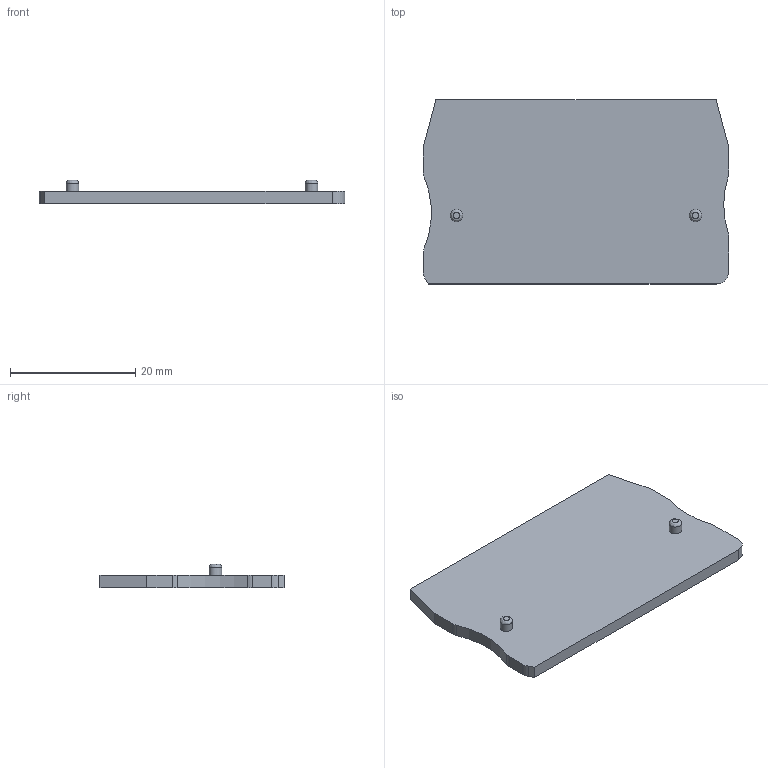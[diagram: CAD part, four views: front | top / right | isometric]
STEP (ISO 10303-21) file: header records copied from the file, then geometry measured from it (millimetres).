
FILE_DESCRIPTION(/* description */ (''),/* implementation_level */ '2;1');
FILE_NAME(/* name */ '815260_MTS_P2.5.stp',/* time_stamp */ '2019-03-14T17:07:33+08:00',/* author */ (''),/* organization */ (''),/* preprocessor_version */ 'ST-DEVELOPER v11',/* originating_system */ 'SIEMENS UGS NX 6.0',/* authorisation */ '');
FILE_SCHEMA (('AUTOMOTIVE_DESIGN { 1 0 10303 214 1 1 1 1 }'));
Length unit declared in the file: millimetre
Products named in the file (1): 815260_MTS_P2.5
Bounding box: 48.8 x 29.4 x 3.8 mm (x, y, z)
Volume: 2816.1 mm3; surface area: 3129.1 mm2
Topology: 1 solids, 1 shells, 25 faces, 61 edges, 40 vertices
Faces by surface type: plane 13, cylinder 10, bspline 2
Full cylindrical faces by diameter (mm): 2 x2
Entity records: 791 total; most frequent: CARTESIAN_POINT 177, DIRECTION 127, ORIENTED_EDGE 114, EDGE_CURVE 57, AXIS2_PLACEMENT_3D 46, VERTEX_POINT 40, LINE 35, VECTOR 35
